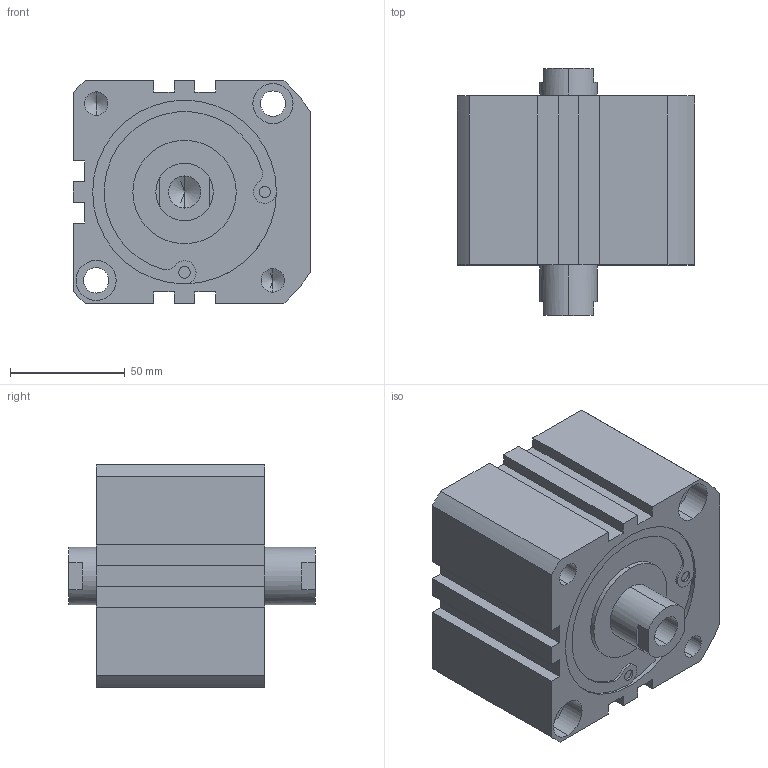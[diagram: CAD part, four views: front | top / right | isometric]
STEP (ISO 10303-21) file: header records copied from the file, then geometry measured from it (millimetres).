
FILE_DESCRIPTION (( 'STEP AP203' ), '1' );
FILE_NAME ('XG#7-80-10.STEP', '2016-05-24T02:00:52', ( '' ), ( '' ), 'SwSTEP 2.0', 'SolidWorks 2014', '' );
FILE_SCHEMA (( 'CONFIG_CONTROL_DESIGN' ));
Length unit declared in the file: millimetre
Products named in the file (1): XG#7-80-10
Bounding box: 103.5 x 107.5 x 97 mm (x, y, z)
Volume: 664922.1 mm3; surface area: 69054.3 mm2
Topology: 1 solids, 1 shells, 142 faces, 354 edges, 222 vertices
Faces by surface type: cylinder 66, plane 56, cone 20
Entity records: 4237 total; most frequent: DIRECTION 774, CARTESIAN_POINT 703, ORIENTED_EDGE 676, EDGE_CURVE 338, AXIS2_PLACEMENT_3D 293, VERTEX_POINT 222, LINE 188, VECTOR 188
